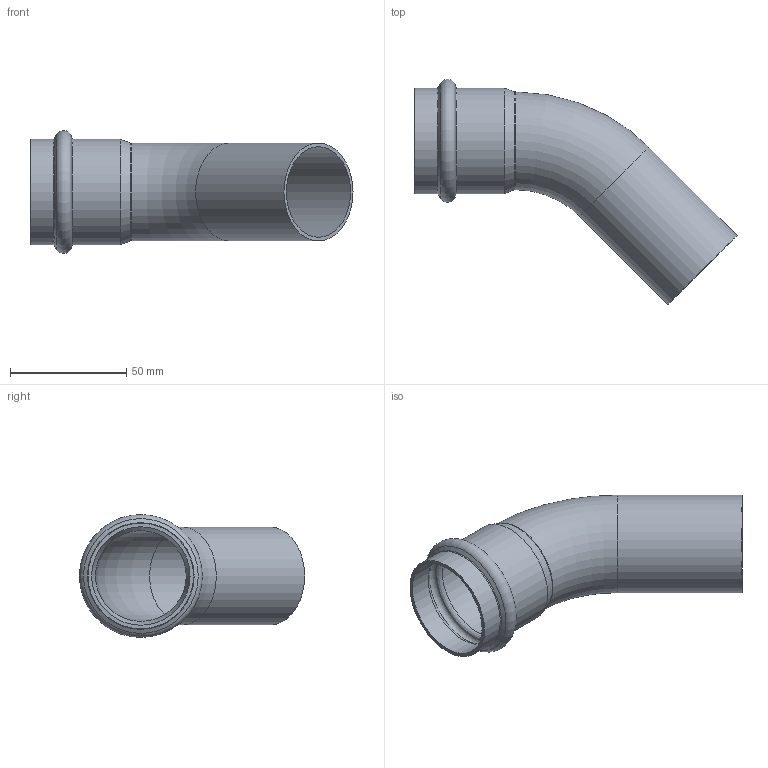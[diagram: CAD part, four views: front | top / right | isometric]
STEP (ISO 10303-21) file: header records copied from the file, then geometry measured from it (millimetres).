
FILE_DESCRIPTION((''),'2;1');
FILE_NAME('G:\Nirosan-Schmiedefeld\Technics\CAD\Bauteile VA\042\6904042(1).stp','2011-09-09T10:38:03',('herberg'),(''),'Autodesk Inventor 2009','Autodesk Inventor 2009','');
FILE_SCHEMA(('AUTOMOTIVE_DESIGN { 1 0 10303 214 1 1 1 1 }'));
Length unit declared in the file: millimetre
Products named in the file (1): 6904042(1)
Bounding box: 138.36 x 96.76 x 52.8 mm (x, y, z)
Volume: 29171.1 mm3; surface area: 39290.7 mm2
Topology: 1 solids, 1 shells, 22 faces, 47 edges, 27 vertices
Faces by surface type: cylinder 8, torus 4, cone 4, bspline 4, plane 2
Full cylindrical faces by diameter (mm): 39 x2, 42 x2, 42.3 x2, 45.3 x2
Entity records: 634 total; most frequent: CARTESIAN_POINT 243, DIRECTION 82, ORIENTED_EDGE 44, EDGE_LOOP 44, AXIS2_PLACEMENT_3D 41, VERTEX_POINT 22, CIRCLE 22, EDGE_CURVE 22
